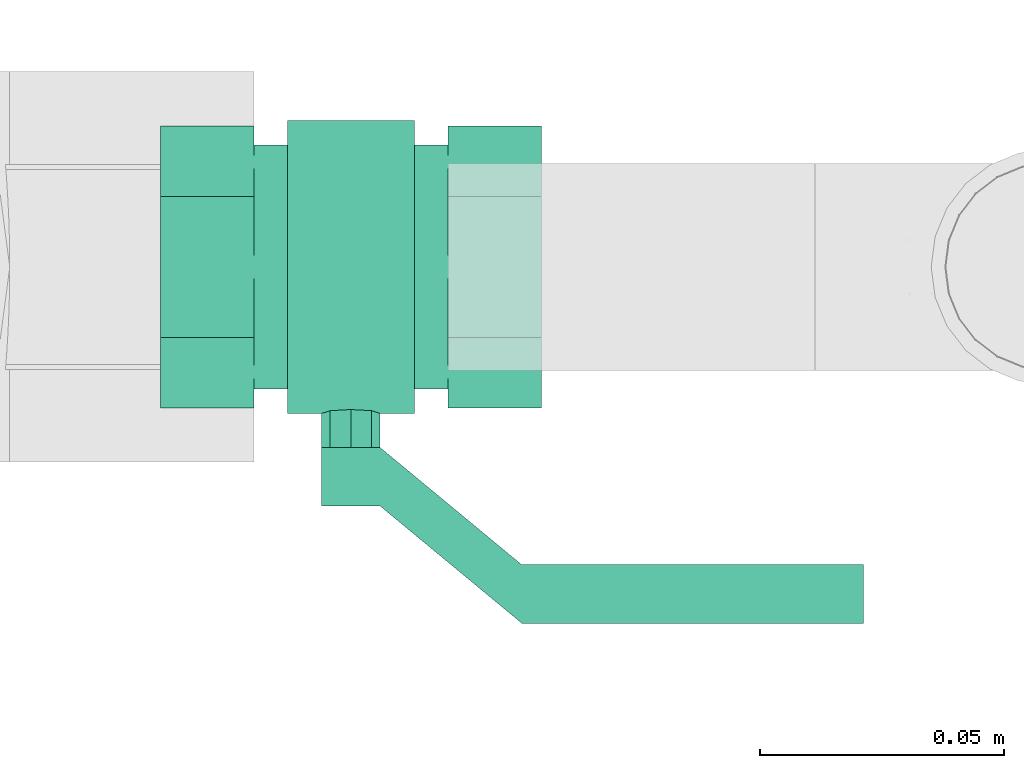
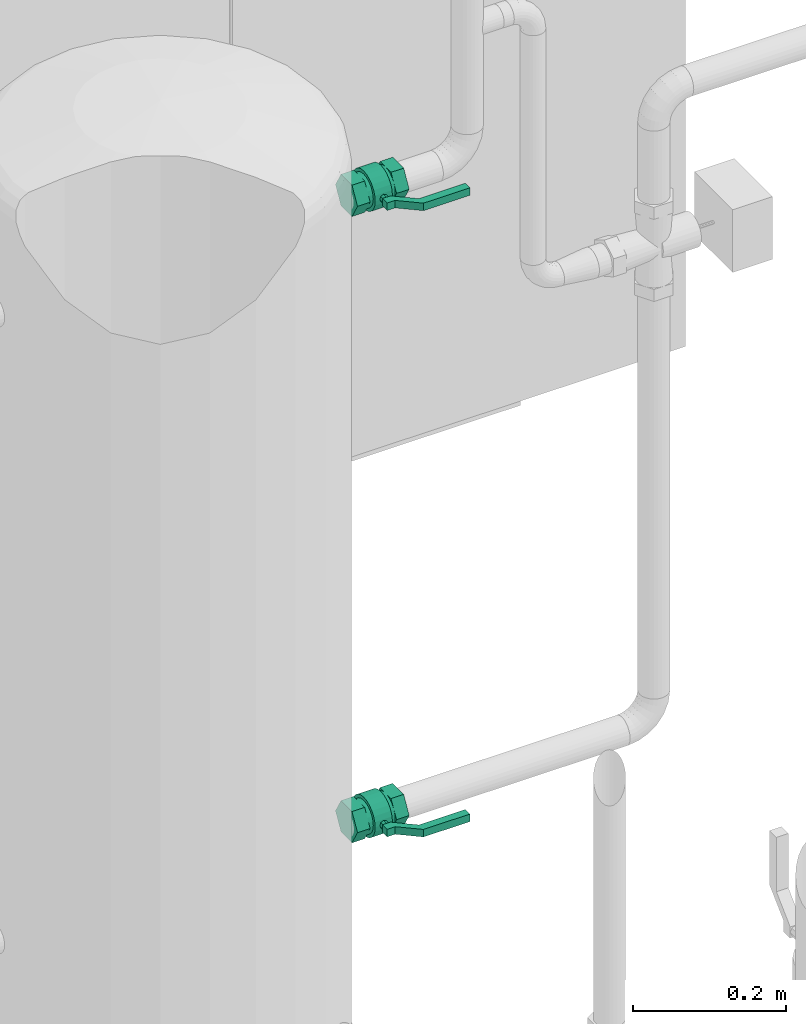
# One storey, part 112 of 374: 2 flow controllers.
"""IFC2X3 building model written with IfcOpenShell, lengths in metres."""

from ifc_helpers import new_model, si_unit, direction, origin, place, context, subcontext, project, spatial, open_shell, surface_model, source, transform, mapped, element, save


model = new_model("IFC2X3")

# Units and contexts
model_context = context("Model", 3, precision=1e-05, world=origin(), true_north=direction((-0.4480736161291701, 0.8939966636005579)))
body_context = subcontext(model_context, "Body", "Model", "MODEL_VIEW")
ifc_project = project(units=[si_unit("LENGTHUNIT", "METRE"), si_unit("AREAUNIT", "SQUARE_METRE"), si_unit("VOLUMEUNIT", "CUBIC_METRE"), si_unit("PLANEANGLEUNIT", "RADIAN"), si_unit("THERMODYNAMICTEMPERATUREUNIT", "KELVIN"), si_unit("MASSUNIT", "GRAM", prefix="KILO"), si_unit("TIMEUNIT", "SECOND")], contexts=[model_context])

# Site, building, storey
site_placement = place(None, origin())
site = spatial("IfcSite", under=ifc_project, at=site_placement, Name="Site 1", CompositionType="ELEMENT")
building_placement = place(site_placement, origin())
building = spatial("IfcBuilding", under=site, at=building_placement, Name="Undefined", CompositionType="ELEMENT")
storey_placement = place(building_placement, origin())
storey = spatial("IfcBuildingStorey", under=building, at=storey_placement, Name="Rez de chauss\x8ee", CompositionType="ELEMENT", Elevation=0.0)

# Flow controllers
shared_shape = source(origin(), body_context, "Body", "SurfaceModel", [
    surface_model("IfcFaceBasedSurfaceModel", [(0.0, 0.0, 0.0), (0.012000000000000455, 0.0, 0.0), (0.012000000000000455, 0.01200000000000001, 0.0), (0.0, 0.01200000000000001, 0.0), (0.012000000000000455, 0.0, -0.011999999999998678), (0.012000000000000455, 0.01200000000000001, -0.011999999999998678), (0.0, 0.0, -0.011999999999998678), (0.0, 0.01200000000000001, -0.011999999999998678), (-0.028999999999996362, 0.0, -0.03599999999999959), (-0.028999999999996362, 0.01200000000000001, -0.03599999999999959), (-0.09899999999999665, 0.0, -0.03599999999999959), (-0.09899999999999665, 0.01200000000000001, -0.03599999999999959), (-0.09899999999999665, 0.0, -0.023999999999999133), (-0.09899999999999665, 0.01200000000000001, -0.023999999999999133), (-0.028999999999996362, 0.0, -0.023999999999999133), (-0.028999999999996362, 0.01200000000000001, -0.023999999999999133), (0.045000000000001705, 0.031000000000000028, 0.05143375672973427), (0.045000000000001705, 0.031000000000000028, 0.022566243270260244), (0.02590000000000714, 0.031000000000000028, 0.022566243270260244), (0.02590000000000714, 0.031000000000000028, 0.05143375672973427), (0.045000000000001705, 0.006000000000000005, 0.06586751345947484), (0.02590000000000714, 0.006000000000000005, 0.06586751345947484), (0.045000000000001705, -0.01899999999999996, 0.05143375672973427), (0.02590000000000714, -0.01899999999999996, 0.05143375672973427), (0.045000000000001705, -0.01899999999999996, 0.022566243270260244), (0.02590000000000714, -0.01899999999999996, 0.022566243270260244), (0.045000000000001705, 0.006000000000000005, 0.008132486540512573), (0.02590000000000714, 0.006000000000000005, 0.008132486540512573), (0.02590000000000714, -0.01899999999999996, 0.03700000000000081), (0.02590000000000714, -0.018148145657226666, 0.04347047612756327), (0.019000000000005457, -0.018148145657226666, 0.04347047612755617), (0.019000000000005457, -0.01899999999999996, 0.036999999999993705), (0.02590000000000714, -0.015650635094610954, 0.0495000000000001), (0.019000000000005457, -0.015650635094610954, 0.049499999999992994), (0.02590000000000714, -0.011677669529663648, 0.054677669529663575), (0.019000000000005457, -0.011677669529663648, 0.05467766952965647), (0.02590000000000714, -0.006500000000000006, 0.05865063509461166), (0.019000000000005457, -0.006500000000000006, 0.05865063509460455), (0.02590000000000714, -0.00047047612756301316, 0.061148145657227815), (0.019000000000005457, -0.00047047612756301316, 0.06114814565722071), (0.02590000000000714, 0.006000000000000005, 0.062000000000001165), (0.019000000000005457, 0.006000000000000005, 0.06199999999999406), (0.02590000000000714, 0.012470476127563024, 0.061148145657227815), (0.019000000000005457, 0.012470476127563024, 0.06114814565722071), (0.02590000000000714, 0.018500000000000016, 0.05865063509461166), (0.019000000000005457, 0.018500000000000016, 0.05865063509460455), (0.02590000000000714, 0.023677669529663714, 0.054677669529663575), (0.019000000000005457, 0.023677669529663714, 0.05467766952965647), (0.02590000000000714, 0.027650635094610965, 0.0495000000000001), (0.019000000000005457, 0.027650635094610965, 0.049499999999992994), (0.02590000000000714, 0.030148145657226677, 0.04347047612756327), (0.019000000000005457, 0.030148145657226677, 0.04347047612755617), (0.02590000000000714, 0.031000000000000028, 0.03700000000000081), (0.019000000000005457, 0.031000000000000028, 0.036999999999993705), (0.02590000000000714, 0.030148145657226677, 0.030529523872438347), (0.019000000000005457, 0.030148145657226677, 0.03052952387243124), (0.02590000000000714, 0.027650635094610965, 0.02450000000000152), (0.019000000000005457, 0.027650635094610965, 0.02449999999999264), (0.02590000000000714, 0.02367766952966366, 0.019322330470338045), (0.019000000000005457, 0.02367766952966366, 0.01932233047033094), (0.02590000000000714, 0.018500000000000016, 0.015349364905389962), (0.019000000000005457, 0.018500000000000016, 0.015349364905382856), (0.02590000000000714, 0.012470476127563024, 0.012851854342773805), (0.019000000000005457, 0.012470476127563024, 0.0128518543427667), (0.02590000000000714, 0.006000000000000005, 0.012000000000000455), (0.019000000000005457, 0.006000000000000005, 0.01199999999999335), (0.02590000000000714, -0.00047047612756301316, 0.012851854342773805), (0.019000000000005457, -0.00047047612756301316, 0.0128518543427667), (0.02590000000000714, -0.006500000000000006, 0.015349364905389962), (0.019000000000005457, -0.006500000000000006, 0.015349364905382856), (0.02590000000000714, -0.011677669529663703, 0.019322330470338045), (0.019000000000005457, -0.011677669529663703, 0.01932233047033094), (0.02590000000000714, -0.015650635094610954, 0.02450000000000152), (0.019000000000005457, -0.015650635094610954, 0.02449999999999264), (0.02590000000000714, -0.018148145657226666, 0.030529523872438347), (0.019000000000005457, -0.018148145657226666, 0.03052952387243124), (0.019000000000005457, -0.023999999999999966, 0.036999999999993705), (0.019000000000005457, -0.022977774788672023, 0.04476457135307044), (-0.006999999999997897, -0.022977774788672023, 0.04476457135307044), (-0.006999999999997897, -0.023999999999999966, 0.036999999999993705), (0.019000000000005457, -0.019980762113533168, 0.05199999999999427), (-0.006999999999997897, -0.019980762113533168, 0.05199999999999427), (0.019000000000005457, -0.0152132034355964, 0.058213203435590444), (-0.006999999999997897, -0.0152132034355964, 0.058213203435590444), (0.019000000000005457, -0.009000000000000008, 0.06298076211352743), (-0.006999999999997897, -0.009000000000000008, 0.06298076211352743), (0.019000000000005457, -0.0017645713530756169, 0.0659777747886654), (-0.006999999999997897, -0.0017645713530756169, 0.0659777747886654), (0.019000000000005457, 0.006000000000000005, 0.06699999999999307), (-0.006999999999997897, 0.006000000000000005, 0.06699999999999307), (0.019000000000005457, 0.013764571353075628, 0.0659777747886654), (-0.006999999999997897, 0.013764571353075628, 0.0659777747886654), (0.019000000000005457, 0.02100000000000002, 0.06298076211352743), (-0.006999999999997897, 0.02100000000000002, 0.06298076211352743), (0.019000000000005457, 0.027213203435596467, 0.058213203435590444), (-0.006999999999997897, 0.027213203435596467, 0.058213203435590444), (0.019000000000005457, 0.03198076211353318, 0.05199999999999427), (-0.006999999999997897, 0.03198076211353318, 0.05199999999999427), (0.019000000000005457, 0.034977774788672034, 0.04476457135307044), (-0.006999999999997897, 0.034977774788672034, 0.04476457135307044), (0.019000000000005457, 0.03600000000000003, 0.036999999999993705), (-0.006999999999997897, 0.03600000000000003, 0.036999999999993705), (0.019000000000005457, 0.034977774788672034, 0.029235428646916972), (-0.006999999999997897, 0.034977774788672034, 0.029235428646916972), (0.019000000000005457, 0.03198076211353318, 0.021999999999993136), (-0.006999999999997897, 0.03198076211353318, 0.021999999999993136), (0.019000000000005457, 0.027213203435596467, 0.015786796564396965), (-0.006999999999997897, 0.027213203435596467, 0.015786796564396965), (0.019000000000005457, 0.02100000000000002, 0.011019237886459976), (-0.006999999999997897, 0.02100000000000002, 0.011019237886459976), (0.019000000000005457, 0.013764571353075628, 0.008022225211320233), (-0.006999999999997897, 0.013764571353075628, 0.008022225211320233), (0.019000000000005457, 0.006000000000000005, 0.006999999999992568), (-0.006999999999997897, 0.006000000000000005, 0.006999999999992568), (0.019000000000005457, -0.0017645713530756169, 0.008022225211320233), (-0.006999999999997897, -0.0017645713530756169, 0.008022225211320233), (0.019000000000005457, -0.009000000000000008, 0.011019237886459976), (-0.006999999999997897, -0.009000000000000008, 0.011019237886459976), (0.019000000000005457, -0.0152132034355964, 0.015786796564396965), (-0.006999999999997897, -0.0152132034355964, 0.015786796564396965), (0.019000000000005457, -0.019980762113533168, 0.021999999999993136), (-0.006999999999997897, -0.019980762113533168, 0.021999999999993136), (0.019000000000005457, -0.022977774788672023, 0.029235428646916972), (-0.006999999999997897, -0.022977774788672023, 0.029235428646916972), (0.019000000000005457, 0.006000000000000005, 0.036999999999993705), (-0.006999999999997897, 0.006000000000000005, 0.036999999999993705), (-0.006999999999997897, -0.01899999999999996, 0.036999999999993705), (-0.006999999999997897, -0.018148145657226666, 0.04347047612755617), (-0.013899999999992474, -0.018148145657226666, 0.04347047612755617), (-0.013899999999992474, -0.01899999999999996, 0.036999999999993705), (-0.006999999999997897, -0.015650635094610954, 0.049499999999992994), (-0.013899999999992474, -0.015650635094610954, 0.049499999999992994), (-0.006999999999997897, -0.011677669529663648, 0.05467766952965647), (-0.013899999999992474, -0.011677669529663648, 0.05467766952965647), (-0.006999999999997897, -0.006500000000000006, 0.05865063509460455), (-0.013899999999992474, -0.006500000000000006, 0.05865063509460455), (-0.006999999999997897, -0.00047047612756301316, 0.06114814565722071), (-0.013899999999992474, -0.00047047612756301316, 0.06114814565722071), (-0.006999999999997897, 0.006000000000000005, 0.06199999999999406), (-0.013899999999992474, 0.006000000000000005, 0.06199999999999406), (-0.006999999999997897, 0.012470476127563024, 0.06114814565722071), (-0.013899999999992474, 0.012470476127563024, 0.06114814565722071), (-0.006999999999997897, 0.018500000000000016, 0.05865063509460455), (-0.013899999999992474, 0.018500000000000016, 0.05865063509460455), (-0.006999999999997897, 0.023677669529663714, 0.05467766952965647), (-0.013899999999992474, 0.023677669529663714, 0.05467766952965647), (-0.006999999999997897, 0.027650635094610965, 0.049499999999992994), (-0.013899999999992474, 0.027650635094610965, 0.049499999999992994), (-0.006999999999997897, 0.030148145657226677, 0.04347047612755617), (-0.013899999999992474, 0.030148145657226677, 0.04347047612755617), (-0.006999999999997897, 0.031000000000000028, 0.036999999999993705), (-0.013899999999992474, 0.031000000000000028, 0.036999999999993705), (-0.006999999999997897, 0.030148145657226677, 0.03052952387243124), (-0.013899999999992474, 0.030148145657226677, 0.03052952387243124), (-0.006999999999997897, 0.027650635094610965, 0.02449999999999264), (-0.013899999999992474, 0.027650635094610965, 0.02449999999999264), (-0.006999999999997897, 0.02367766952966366, 0.01932233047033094), (-0.013899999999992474, 0.02367766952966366, 0.01932233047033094), (-0.006999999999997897, 0.018500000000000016, 0.015349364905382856), (-0.013899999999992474, 0.018500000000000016, 0.015349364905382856), (-0.006999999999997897, 0.012470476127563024, 0.0128518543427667), (-0.013899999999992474, 0.012470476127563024, 0.0128518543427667), (-0.006999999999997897, 0.006000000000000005, 0.01199999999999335), (-0.013899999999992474, 0.006000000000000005, 0.01199999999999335), (-0.006999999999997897, -0.00047047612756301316, 0.0128518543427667), (-0.013899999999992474, -0.00047047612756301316, 0.0128518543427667), (-0.006999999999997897, -0.006500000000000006, 0.015349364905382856), (-0.013899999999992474, -0.006500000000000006, 0.015349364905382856), (-0.006999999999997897, -0.011677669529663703, 0.01932233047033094), (-0.013899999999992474, -0.011677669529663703, 0.01932233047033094), (-0.006999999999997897, -0.015650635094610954, 0.02449999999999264), (-0.013899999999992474, -0.015650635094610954, 0.02449999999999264), (-0.006999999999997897, -0.018148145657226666, 0.03052952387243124), (-0.013899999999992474, -0.018148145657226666, 0.03052952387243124), (-0.013899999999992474, 0.031000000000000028, 0.051433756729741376), (-0.01389999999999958, 0.031000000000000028, 0.02256624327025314), (-0.032999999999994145, 0.031000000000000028, 0.02256624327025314), (-0.03299999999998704, 0.031000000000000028, 0.051433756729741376), (-0.01389999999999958, 0.006000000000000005, 0.06586751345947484), (-0.032999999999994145, 0.006000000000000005, 0.06586751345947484), (-0.013899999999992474, -0.01899999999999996, 0.051433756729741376), (-0.03299999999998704, -0.01899999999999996, 0.051433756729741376), (-0.01389999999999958, -0.01899999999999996, 0.02256624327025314), (-0.032999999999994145, -0.01899999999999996, 0.02256624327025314), (-0.01389999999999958, 0.006000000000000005, 0.008132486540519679), (-0.032999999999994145, 0.006000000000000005, 0.008132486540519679), (0.0, 0.006000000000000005, 0.03700000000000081), (0.0017573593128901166, 0.010242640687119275, 0.03700000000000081), (0.0017573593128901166, 0.010242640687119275, 0.0), (0.0, 0.006000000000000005, 0.0), (0.006000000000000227, 0.01200000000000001, 0.03700000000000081), (0.006000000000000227, 0.01200000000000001, 0.0), (0.010242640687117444, 0.010242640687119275, 0.03700000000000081), (0.010242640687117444, 0.010242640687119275, 0.0), (0.012000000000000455, 0.006000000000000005, 0.03700000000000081), (0.012000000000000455, 0.006000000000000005, 0.0), (0.010242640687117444, 0.0017573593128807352, 0.03700000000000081), (0.010242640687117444, 0.0017573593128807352, 0.0), (0.006000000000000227, 0.0, 0.03700000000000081), (0.006000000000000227, 0.0, 0.0), (0.0017573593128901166, 0.0017573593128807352, 0.03700000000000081), (0.0017573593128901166, 0.0017573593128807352, 0.0)], [open_shell([[[0, 1, 2, 3]], [[1, 4, 5, 2]], [[4, 6, 7, 5]], [[6, 8, 9, 7]], [[8, 10, 11, 9]], [[10, 12, 13, 11]], [[12, 14, 15, 13]], [[14, 0, 3, 15]], [[2, 7, 3]], [[9, 3, 7]], [[3, 9, 15]], [[11, 15, 9]], [[15, 11, 13]], [[7, 2, 5]], [[0, 6, 1]], [[6, 0, 8]], [[14, 8, 0]], [[8, 14, 10]], [[12, 10, 14]], [[4, 1, 6]], [[16, 17, 18, 19]], [[20, 16, 19, 21]], [[22, 20, 21, 23]], [[24, 22, 23, 25]], [[26, 24, 25, 27]], [[17, 26, 27, 18]], [[17, 16, 20]], [[17, 20, 22]], [[17, 22, 24]], [[17, 24, 26]], [[18, 21, 19]], [[18, 23, 21]], [[18, 25, 23]], [[18, 27, 25]], [[28, 29, 30, 31]], [[29, 32, 33, 30]], [[32, 34, 35, 33]], [[34, 36, 37, 35]], [[36, 38, 39, 37]], [[38, 40, 41, 39]], [[40, 42, 43, 41]], [[42, 44, 45, 43]], [[44, 46, 47, 45]], [[46, 48, 49, 47]], [[48, 50, 51, 49]], [[50, 52, 53, 51]], [[52, 54, 55, 53]], [[54, 56, 57, 55]], [[56, 58, 59, 57]], [[58, 60, 61, 59]], [[60, 62, 63, 61]], [[62, 64, 65, 63]], [[64, 66, 67, 65]], [[66, 68, 69, 67]], [[68, 70, 71, 69]], [[70, 72, 73, 71]], [[72, 74, 75, 73]], [[74, 28, 31, 75]], [[76, 77, 78, 79]], [[77, 80, 81, 78]], [[80, 82, 83, 81]], [[82, 84, 85, 83]], [[84, 86, 87, 85]], [[86, 88, 89, 87]], [[88, 90, 91, 89]], [[90, 92, 93, 91]], [[92, 94, 95, 93]], [[94, 96, 97, 95]], [[96, 98, 99, 97]], [[98, 100, 101, 99]], [[100, 102, 103, 101]], [[102, 104, 105, 103]], [[104, 106, 107, 105]], [[106, 108, 109, 107]], [[108, 110, 111, 109]], [[110, 112, 113, 111]], [[112, 114, 115, 113]], [[114, 116, 117, 115]], [[116, 118, 119, 117]], [[118, 120, 121, 119]], [[120, 122, 123, 121]], [[122, 76, 79, 123]], [[124, 77, 76]], [[124, 80, 77]], [[124, 82, 80]], [[124, 84, 82]], [[124, 86, 84]], [[124, 88, 86]], [[124, 90, 88]], [[124, 92, 90]], [[124, 94, 92]], [[124, 96, 94]], [[124, 98, 96]], [[124, 100, 98]], [[124, 102, 100]], [[124, 104, 102]], [[124, 106, 104]], [[124, 108, 106]], [[124, 110, 108]], [[124, 112, 110]], [[124, 114, 112]], [[124, 116, 114]], [[124, 118, 116]], [[124, 120, 118]], [[124, 122, 120]], [[124, 76, 122]], [[125, 123, 79]], [[125, 121, 123]], [[125, 119, 121]], [[125, 117, 119]], [[125, 115, 117]], [[125, 113, 115]], [[125, 111, 113]], [[125, 109, 111]], [[125, 107, 109]], [[125, 105, 107]], [[125, 103, 105]], [[125, 101, 103]], [[125, 99, 101]], [[125, 97, 99]], [[125, 95, 97]], [[125, 93, 95]], [[125, 91, 93]], [[125, 89, 91]], [[125, 87, 89]], [[125, 85, 87]], [[125, 83, 85]], [[125, 81, 83]], [[125, 78, 81]], [[125, 79, 78]], [[126, 127, 128, 129]], [[127, 130, 131, 128]], [[130, 132, 133, 131]], [[132, 134, 135, 133]], [[134, 136, 137, 135]], [[136, 138, 139, 137]], [[138, 140, 141, 139]], [[140, 142, 143, 141]], [[142, 144, 145, 143]], [[144, 146, 147, 145]], [[146, 148, 149, 147]], [[148, 150, 151, 149]], [[150, 152, 153, 151]], [[152, 154, 155, 153]], [[154, 156, 157, 155]], [[156, 158, 159, 157]], [[158, 160, 161, 159]], [[160, 162, 163, 161]], [[162, 164, 165, 163]], [[164, 166, 167, 165]], [[166, 168, 169, 167]], [[168, 170, 171, 169]], [[170, 172, 173, 171]], [[172, 126, 129, 173]], [[174, 175, 176, 177]], [[178, 174, 177, 179]], [[180, 178, 179, 181]], [[182, 180, 181, 183]], [[184, 182, 183, 185]], [[175, 184, 185, 176]], [[175, 174, 178]], [[175, 178, 180]], [[175, 180, 182]], [[175, 182, 184]], [[176, 179, 177]], [[176, 181, 179]], [[176, 183, 181]], [[176, 185, 183]], [[186, 187, 188, 189]], [[187, 190, 191, 188]], [[190, 192, 193, 191]], [[192, 194, 195, 193]], [[194, 196, 197, 195]], [[196, 198, 199, 197]], [[198, 200, 201, 199]], [[200, 186, 189, 201]]])]),
])
flow_controller_1_placement = place(storey_placement, origin())
element("IfcFlowController", 1, at=flow_controller_1_placement, inside=storey, Name="Robinet à boisseau sphér. DN 32", ObjectType="Robinet à boisseau sphér. DN 32", context=body_context, shape_type="MappedRepresentation", body=[
    mapped(shared_shape, transform((53.96183762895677, 11.671084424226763, 0.365), x_axis=(-1.0, 0.0, 0.0), y_axis=(0.0, 0.0, 1.0), z_axis=(0.0, 1.0, 0.0))),
])
flow_controller_2_placement = place(storey_placement, origin())
element("IfcFlowController", 2, at=flow_controller_2_placement, inside=storey, Name="Robinet à boisseau sphér. DN 32", ObjectType="Robinet à boisseau sphér. DN 32", context=body_context, shape_type="MappedRepresentation", body=[
    mapped(shared_shape, transform((53.96183762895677, 11.671084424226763, 1.364), x_axis=(-1.0, 0.0, 0.0), y_axis=(0.0, 0.0, 1.0), z_axis=(0.0, 1.0, 0.0))),
])

save(model, "model.ifc")
